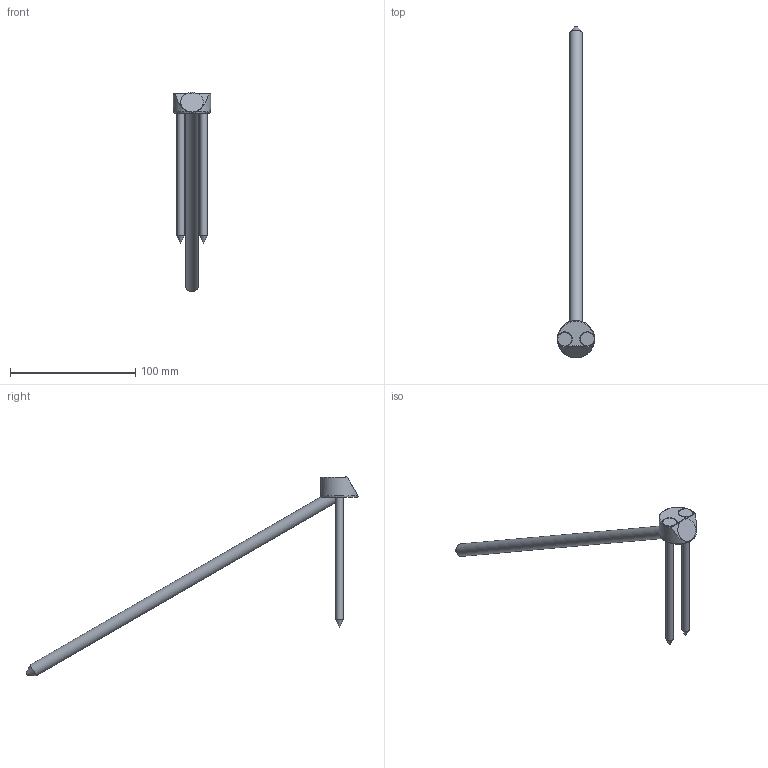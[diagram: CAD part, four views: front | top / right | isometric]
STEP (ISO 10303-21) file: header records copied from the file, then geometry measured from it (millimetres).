
FILE_DESCRIPTION(/* description */ ('Unknown'),/* implementation_level */ '2;1');
FILE_NAME(/* name */ 'T-JOINT_D30_W30_2xSK 6x120_1xSK 10x300',/* time_stamp */ '2022-02-03T09:45:12+01:00',/* author */ ('Unknown'),/* organization */ ('Unknown'),/* preprocessor_version */ 'ST-DEVELOPER v16.7',/* originating_system */ 'Solid Edge',/* authorisation */ 'Unknown');
FILE_SCHEMA (('AUTOMOTIVE_DESIGN {1 0 10303 214 3 1 1}'));
Length unit declared in the file: millimetre
Products named in the file (4): T-Joint_D30_W30_2xSK6x120_1xSK10x300; T-Joint_D30_W30; SK Schraube 6x120_ohne_Gewinde; SK Schraube 10x300_ohne_Gewinde_22042020
Assembly tree (4 placements, depth 2):
  T-Joint_D30_W30_2xSK6x120_1xSK10x300
    T-Joint_D30_W30
    SK Schraube 6x120_ohne_Gewinde  x2
    SK Schraube 10x300_ohne_Gewinde_22042020
Bounding box: 29.76 x 264.94 x 159.1 mm (x, y, z)
Volume: 37691.5 mm3; surface area: 17919.1 mm2
Topology: 4 solids, 4 shells, 30 faces, 67 edges, 41 vertices
Faces by surface type: cylinder 10, plane 9, cone 9, torus 2
Full cylindrical faces by diameter (mm): 6 x2, 6.2 x2, 10 x1, 10.5 x1, 11 x2, 18 x1
Entity records: 704 total; most frequent: CARTESIAN_POINT 130, DIRECTION 114, ORIENTED_EDGE 72, AXIS2_PLACEMENT_3D 56, EDGE_LOOP 41, FACE_BOUND 41, EDGE_CURVE 36, VERTEX_POINT 29
